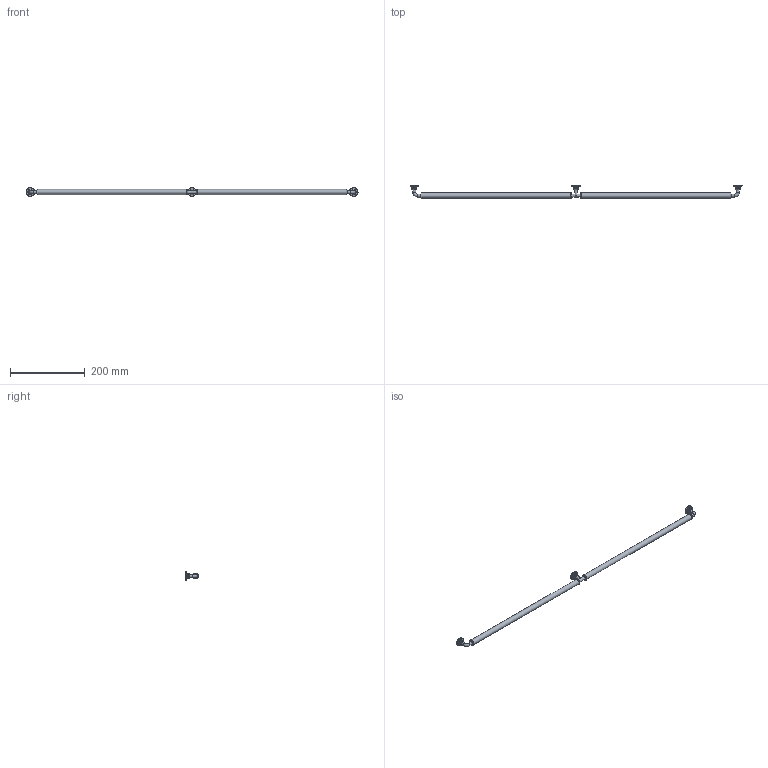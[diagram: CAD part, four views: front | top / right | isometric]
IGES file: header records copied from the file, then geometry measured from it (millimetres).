
Start section: Data from Parasolid IGES Translator 15.0.47, Copyright(c) 2006 Siemens P LM Software. All Rights Reserved.
Global section: file name: 9132279.igs; native system:  By UGS Corp.; preprocessor: XPlus GENERIC/IGES 3.0; author: Noname; organization: Noname; date: 20140122.102215; units: millimetre
Bounding box: 888 x 34.99 x 23 mm (x, y, z)
Surface area: 42958.4 mm2 (no closed solid volume)
Topology: 0 solids, 0 shells, 67 faces, 304 edges, 250 vertices
Faces by surface type: revolution 56, extrusion 11
